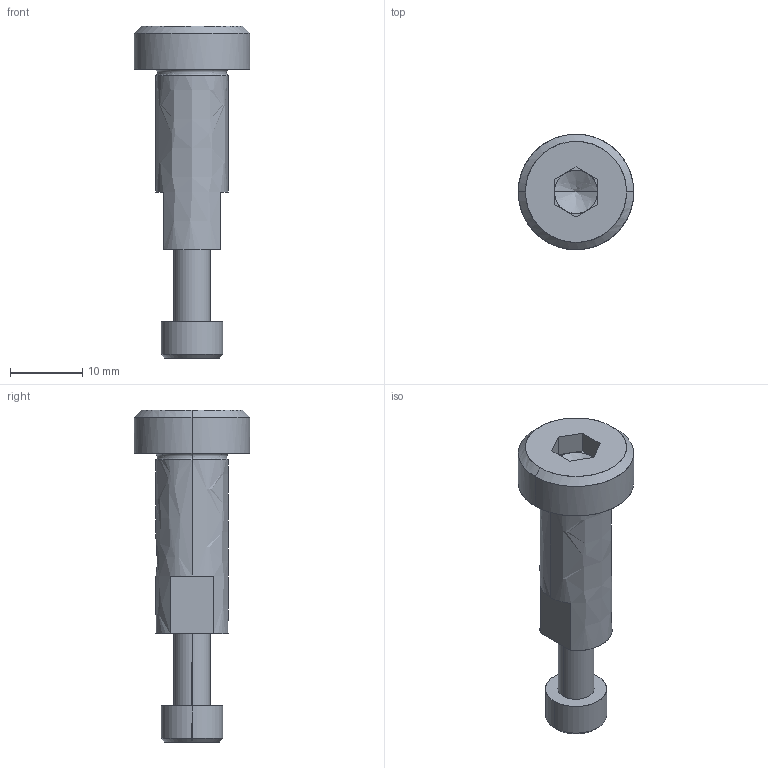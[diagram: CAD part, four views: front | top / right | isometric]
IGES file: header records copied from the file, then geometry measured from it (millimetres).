
Global section: file name: E:\UnigraphicsGraphicData\MISUMI_PRESS-PARTS\IGES\3d_sbt10-25_05085_r00.igs; native system: NX V5.0; preprocessor: UGS NX IGES V5.0; author: MISUMI; date: 20110105.162431; units: millimetre
Bounding box: 16 x 16 x 46 mm (x, y, z)
Surface area: 2445.9 mm2 (no closed solid volume)
Topology: 0 solids, 0 shells, 56 faces, 300 edges, 296 vertices
Faces by surface type: bspline 56
